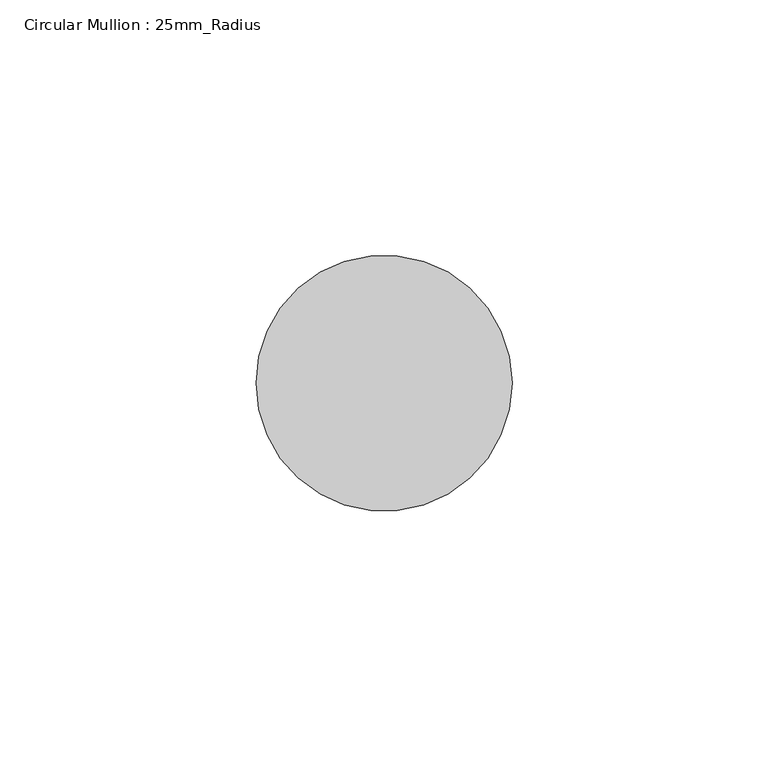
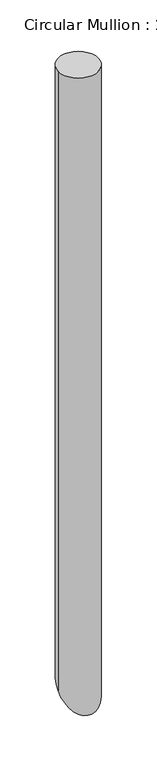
"""IFC4 building model written with IfcOpenShell, lengths in millimetres: member geometry, Circular Mullion : 25mm_Radius."""

import ifcopenshell
import ifcopenshell.guid

model = None  # the IFC model being written
_history = None  # IfcOwnerHistory: only IFC2X3 demands one
_inside = {}  # id of a spatial element -> (the spatial element, [elements in it])
_under = {}  # id of a project, library or spatial element -> (it, [spatial elements below it])
_declared = {}  # id of a project -> (the project, [libraries it declares])
_typed = {}  # id of a type object -> (the type object, [elements of that type])
_made_of = {}  # id of a material, layer set ... -> (it, [elements and type objects made of it])


def new_model(schema):
    """Start an empty IFC model of exactly this schema.

    Asked for "IFC4X3", IfcOpenShell would pick the latest addendum, in which some entities
    have other attributes; the version numbers below select the first issue.
    IFC2X3 requires an IfcOwnerHistory on every rooted entity: one is made here for all.
    """
    global model, _history
    if schema == "IFC4X3":
        model = ifcopenshell.file(schema_version=(4, 3, 0, 0))
    else:
        model = ifcopenshell.file(schema=schema)
    _inside.clear()
    _under.clear()
    _declared.clear()
    _typed.clear()
    _made_of.clear()
    _history = None
    if model.schema == "IFC2X3":
        org = make("IfcOrganization", Name="unknown")
        user = make(
            "IfcPersonAndOrganization",
            ThePerson=make("IfcPerson", FamilyName="unknown"),
            TheOrganization=org,
        )
        app = make(
            "IfcApplication",
            ApplicationDeveloper=org,
            Version="unknown",
            ApplicationFullName="unknown",
            ApplicationIdentifier="unknown",
        )
        _history = make(
            "IfcOwnerHistory",
            OwningUser=user,
            OwningApplication=app,
            ChangeAction="ADDED",
            CreationDate=0,
        )
    return model


def make(cls, **values):
    """One entity of the class cls with the attributes given. An attribute that is None is left unset."""
    return model.create_entity(
        cls, **{name: value for name, value in values.items() if value is not None}
    )


def rooted(cls, **values):
    """An entity with a GlobalId (a new one), such as an element, a storey or a relation."""
    return make(cls, GlobalId=ifcopenshell.guid.new(), OwnerHistory=_history, **values)


def si_unit(unit_type, name, prefix=None):
    """IfcSIUnit, for example si_unit("LENGTHUNIT", "METRE", prefix="MILLI")."""
    return make("IfcSIUnit", UnitType=unit_type, Prefix=prefix, Name=name)


def assignment(units):
    """IfcUnitAssignment: the units of a project."""
    return None if units is None else make("IfcUnitAssignment", Units=units)


def point(xyz):
    """IfcCartesianPoint."""
    return None if xyz is None else make("IfcCartesianPoint", Coordinates=xyz)


def direction(xyz):
    """IfcDirection."""
    return None if xyz is None else make("IfcDirection", DirectionRatios=xyz)


def frame(location, z_axis=None, x_axis=None):
    """IfcAxis2Placement3D, a coordinate frame: its origin and axes. An axis left out is left unset."""
    return make(
        "IfcAxis2Placement3D",
        Location=point(location),
        Axis=direction(z_axis),
        RefDirection=direction(x_axis),
    )


def origin():
    """The frame at (0, 0, 0) with its axes left unset."""
    return frame((0.0, 0.0, 0.0))


def place(relative_to, where):
    """IfcLocalPlacement: puts the frame where relative to a parent placement (None: the world)."""
    return make(
        "IfcLocalPlacement", PlacementRelTo=relative_to, RelativePlacement=where
    )


def context(
    kind, dimensions, precision=None, world=None, true_north=None, identifier=None
):
    """IfcGeometricRepresentationContext, for example the 3D "Model" context."""
    return make(
        "IfcGeometricRepresentationContext",
        ContextIdentifier=identifier,
        ContextType=kind,
        CoordinateSpaceDimension=dimensions,
        Precision=precision,
        WorldCoordinateSystem=world,
        TrueNorth=true_north,
    )


def project(units=None, contexts=None):
    """IfcProject with its units and contexts."""
    return rooted(
        "IfcProject",
        Name="project",
        RepresentationContexts=contexts,
        UnitsInContext=assignment(units),
    )


def spatial(cls, under=None, at=None, **own):
    """A site, building, storey or space (cls), placed at a placement, below another one or the project."""
    s = rooted(cls, ObjectPlacement=at, **own)
    if under is not None:
        _under.setdefault(under.id(), (under, []))[1].append(s)
    return s


def circle_curve(where, radius):
    """IfcCircle in the frame where."""
    return make("IfcCircle", Position=where, Radius=radius)


def ellipse_curve(where, semi_axis1, semi_axis2):
    """IfcEllipse in the frame where."""
    return make(
        "IfcEllipse", Position=where, SemiAxis1=semi_axis1, SemiAxis2=semi_axis2
    )


def shape(context_of_items, identifier, shape_type, items):
    """IfcShapeRepresentation: the items that make up one representation, for example the "Body"."""
    return make(
        "IfcShapeRepresentation",
        ContextOfItems=context_of_items,
        RepresentationIdentifier=identifier,
        RepresentationType=shape_type,
        Items=items,
    )


def source(mapping_origin, context_of_items, identifier, shape_type, items):
    """IfcRepresentationMap: a shape defined once, which mapped items show again and again."""
    return make(
        "IfcRepresentationMap",
        MappingOrigin=mapping_origin,
        MappedRepresentation=shape(context_of_items, identifier, shape_type, items),
    )


def transform(
    local_origin,
    x_axis=None,
    y_axis=None,
    z_axis=None,
    scale=None,
    scale2=None,
    scale3=None,
    uniform=True,
):
    """IfcCartesianTransformationOperator3D, or its non-uniform kind. x_axis, y_axis, z_axis: its Axis1, 2, 3."""
    if uniform:
        return make(
            "IfcCartesianTransformationOperator3D",
            Axis1=direction(x_axis),
            Axis2=direction(y_axis),
            LocalOrigin=point(local_origin),
            Scale=scale,
            Axis3=direction(z_axis),
        )
    return make(
        "IfcCartesianTransformationOperator3DnonUniform",
        Axis1=direction(x_axis),
        Axis2=direction(y_axis),
        LocalOrigin=point(local_origin),
        Scale=scale,
        Axis3=direction(z_axis),
        Scale2=scale2,
        Scale3=scale3,
    )


def mapped(mapping_source, mapping_target):
    """IfcMappedItem: shows the shape of a source again, moved by a transform."""
    return make(
        "IfcMappedItem", MappingSource=mapping_source, MappingTarget=mapping_target
    )


def made_of(thing, what):
    """Note that an element or type object is made of a material, layer set ...; save() writes the relation."""
    if what is not None:
        _made_of.setdefault(what.id(), (what, []))[1].append(thing)
    return thing


def element(
    cls,
    number,
    at=None,
    inside=None,
    cuts=None,
    type_object=None,
    material=None,
    context=None,
    identifier="Body",
    shape_type=None,
    held_by="IfcProductDefinitionShape",
    body=None,
    shapes=None,
    **own,
):
    """One element of the class cls, such as IfcWall. Its Tag is "e" and its number.

    at: its placement. inside: the storey or other place that contains it. cuts: it is an
    opening in that element (IfcRelVoidsElement). A single representation is given by context,
    identifier, shape_type and body (its items); several are given by shapes. held_by: the class
    of the entity that holds the representations. save() writes the other relations.
    """
    e = rooted(cls, Tag="e%d" % number, ObjectPlacement=at, **own)
    if body is not None:
        shapes = [shape(context, identifier, shape_type, body)]
    if shapes is not None:
        e.Representation = make(held_by, Representations=shapes)
    if inside is not None:
        _inside.setdefault(inside.id(), (inside, []))[1].append(e)
    if cuts is not None:
        rooted(
            "IfcRelVoidsElement", RelatingBuildingElement=cuts, RelatedOpeningElement=e
        )
    if type_object is not None:
        _typed.setdefault(type_object.id(), (type_object, []))[1].append(e)
    return made_of(e, material)


def aggregate(whole, parts):
    """IfcRelAggregates: a whole, such as a stair, and the parts it consists of."""
    return rooted("IfcRelAggregates", RelatingObject=whole, RelatedObjects=parts)


def save(model, path):
    """Write the relations noted so far, then the file.

    IfcRelAggregates (storeys below a building ...), IfcRelContainedInSpatialStructure (elements
    in a storey), IfcRelDefinesByType, IfcRelAssociatesMaterial and IfcRelDeclares: one each for
    every whole, place, type object, material and project.
    """
    for whole, parts in _under.values():
        aggregate(whole, parts)
    for where, things in _inside.values():
        rooted(
            "IfcRelContainedInSpatialStructure",
            RelatedElements=things,
            RelatingStructure=where,
        )
    for kind, things in _typed.values():
        rooted("IfcRelDefinesByType", RelatedObjects=things, RelatingType=kind)
    for what, things in _made_of.values():
        rooted("IfcRelAssociatesMaterial", RelatedObjects=things, RelatingMaterial=what)
    for by, libraries in _declared.values():
        rooted("IfcRelDeclares", RelatingContext=by, RelatedDefinitions=libraries)
    model.write(path)


def plane_surface(at):
    """IfcPlane: the flat surface through the origin of the frame at, square to its z axis."""
    return make("IfcPlane", Position=at)


def cylinder_surface(at, radius):
    """IfcCylindricalSurface: all points at the distance radius from the z axis of the frame at."""
    return make("IfcCylindricalSurface", Position=at, Radius=radius)


def advanced_brep(points, edges, surfaces, faces):
    """IfcAdvancedBrep: a solid bounded by faces that lie on surfaces and meet in shared edges.

    An edge is (start, end): straight between two places in points (the first is 0);
    or (start, end, curve); or (start, end, curve, False) where it runs against its curve.
    A face is (place in surfaces, loops), or (place, loops, False) where it looks against
    its surface's normal. A loop lists edges by number (the first is 1), with a minus sign
    where the edge is run from its end to its start. The first loop is the outer one.
    """
    corners = [point(p) for p in points]
    vertices = [make("IfcVertexPoint", VertexGeometry=c) for c in corners]
    made = []
    for start, end, *more in edges:
        made.append(
            make(
                "IfcEdgeCurve",
                EdgeStart=vertices[start],
                EdgeEnd=vertices[end],
                EdgeGeometry=more[0] if more else make("IfcPolyline", Points=[corners[start], corners[end]]),
                SameSense=more[1] if len(more) > 1 else True,
            )
        )
    hull = []
    for where, loops, *sense in faces:
        bounds = []
        for j, loop in enumerate(loops):
            ring = [make("IfcOrientedEdge", EdgeElement=made[abs(k) - 1], Orientation=k > 0) for k in loop]
            bounds.append(
                make(
                    "IfcFaceOuterBound" if j == 0 else "IfcFaceBound",
                    Bound=make("IfcEdgeLoop", EdgeList=ring),
                    Orientation=True,
                )
            )
        hull.append(make("IfcAdvancedFace", Bounds=bounds, FaceSurface=surfaces[where], SameSense=sense[0] if sense else True))
    return make("IfcAdvancedBrep", Outer=make("IfcClosedShell", CfsFaces=hull))


def circular_mullion_25mm_radius_eee63673(model_context):
    return source(origin(), model_context, "Body", "AdvancedBrep", [
        advanced_brep(
        [(0.0, 0.0, 0.0), (-50.0, 0.0, 0.0), (0.0, 0.0, -812.4994084), (-50.0, 0.0, -812.4994084)],
        [
            (0, 1, circle_curve(frame((-25.0, 0.0, 0.0), z_axis=(0.0, 0.0, 1.0), x_axis=(1.0, 0.0, 0.0)), 25.0)),
            (1, 0, circle_curve(frame((-25.0, 0.0, 0.0), z_axis=(0.0, 0.0, 1.0), x_axis=(1.0, 0.0, 0.0)), 25.0)),
            (0, 2),
            (2, 3, ellipse_curve(frame((-25.0, 0.0, -812.4994084), z_axis=(0.0, -0.7071067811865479, 0.7071067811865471), x_axis=(0.0, 0.7071067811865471, 0.7071067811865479)), 35.3553391, 25.0)),
            (3, 1),
            (3, 2, ellipse_curve(frame((-25.0, 0.0, -812.4994084), z_axis=(0.0, -0.7071067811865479, 0.7071067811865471), x_axis=(0.0, 0.7071067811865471, 0.7071067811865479)), 35.3553391, 25.0)),
        ],
        [
            plane_surface(frame((0.0, -50.0, 0.0), z_axis=(0.0, 0.0, 1.0), x_axis=(-1.0, 0.0, 0.0))),
            cylinder_surface(frame((-25.0, 0.0, 0.0), z_axis=(0.0, 0.0, 1.0), x_axis=(1.0, 0.0, 0.0)), 25.0),
            plane_surface(frame((-304.8, 0.0, -812.4994084), z_axis=(0.0, 0.7071067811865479, -0.7071067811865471), x_axis=(0.0, 0.7071067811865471, 0.7071067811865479))),
        ],
        [
            (0, [[1, 2]]),
            (1, [[-1, 3, 4, 5]]),
            (1, [[-2, -5, 6, -3]]),
            (2, [[-6, -4]]),
        ],
    ),
    ])


if __name__ == "__main__":
    model = new_model("IFC4")
    model_context = context("Model", 3, world=origin())
    ifc_project = project(units=[si_unit("LENGTHUNIT", "METRE", prefix="MILLI")], contexts=[model_context])
    site = spatial("IfcSite", under=ifc_project)
    building = spatial("IfcBuilding", under=site)
    placement = place(None, origin())
    circular_mullion_25mm_radius_shape = circular_mullion_25mm_radius_eee63673(model_context)
    element("IfcMember", 1, ObjectType="Circular Mullion : 25mm_Radius", at=placement, inside=building, context=model_context, shape_type="MappedRepresentation", body=[
        mapped(circular_mullion_25mm_radius_shape, transform((0.0, 0.0, 0.0), x_axis=(1.0, 0.0, 0.0), y_axis=(0.0, 1.0, 0.0), z_axis=(0.0, 0.0, 1.0))),
    ])
    save(model, "model.ifc")
